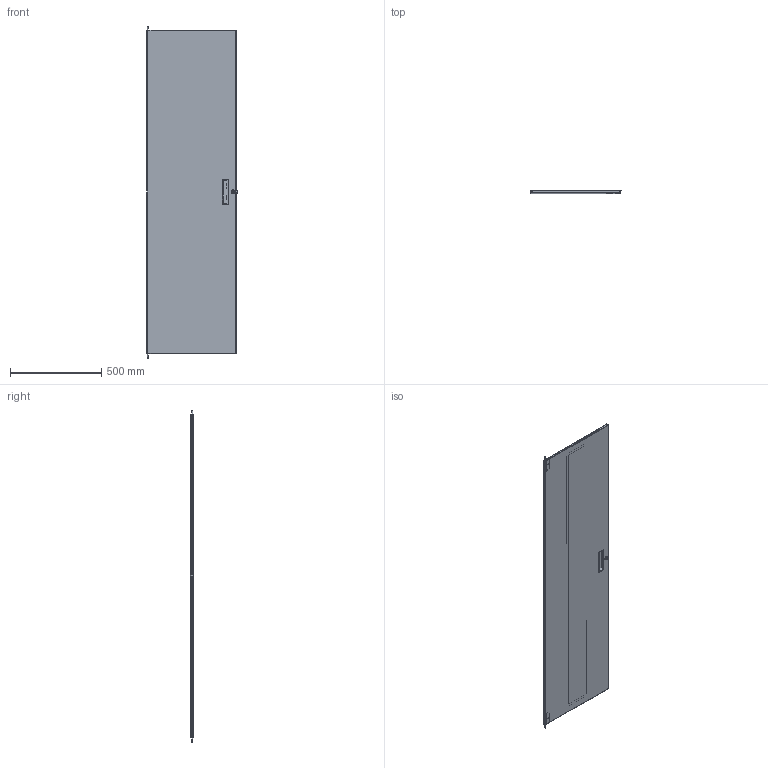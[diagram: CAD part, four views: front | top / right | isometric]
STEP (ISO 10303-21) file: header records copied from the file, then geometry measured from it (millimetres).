
FILE_DESCRIPTION( ( 'Unknown' ), '1' );
FILE_NAME( 'Q:/WEB DRAWINGS/STEP/CDF1970S.stp', 'Unknown', ( 'Unknown' ), ( 'Unknown' ), 'PSStep 17.0.49', 'Unknown', ' ' );
FILE_SCHEMA( ( 'AUTOMOTIVE_DESIGN { 1 0 10303 214 1 1 1 1 }' ) );
Length unit declared in the file: millimetre
Products named in the file (10): COM54617; HNG14581; std26020; COM43745; COM40864; Assem1; LOC13312; HAN13044; PIN17620
Assembly tree (11 placements, depth 4):
  Assem1
    LOC13312
    HAN13044
    PIN17620  x2
    COM43745
      COM40864
      COM43745
      COM54617  x2
        HNG14581
        std26020
Bounding box: 496.67 x 19.96 x 1819.55 mm (x, y, z)
Volume: 1776540.4 mm3; surface area: 2539451.6 mm2
Topology: 10 solids, 10 shells, 298 faces, 721 edges, 458 vertices
Faces by surface type: plane 203, cylinder 70, bspline 12, cone 9, torus 4
Full cylindrical faces by diameter (mm): 4.775 x2, 5.182 x2, 6.35 x8, 8.382 x1, 13.868 x1, 13.97 x1, 21.996 x1
Entity records: 10256 total; most frequent: CARTESIAN_POINT 1910, ORIENTED_EDGE 1240, DIRECTION 1230, EDGE_CURVE 620, LINE 466, VECTOR 466, VERTEX_POINT 402, AXIS2_PLACEMENT_3D 382
